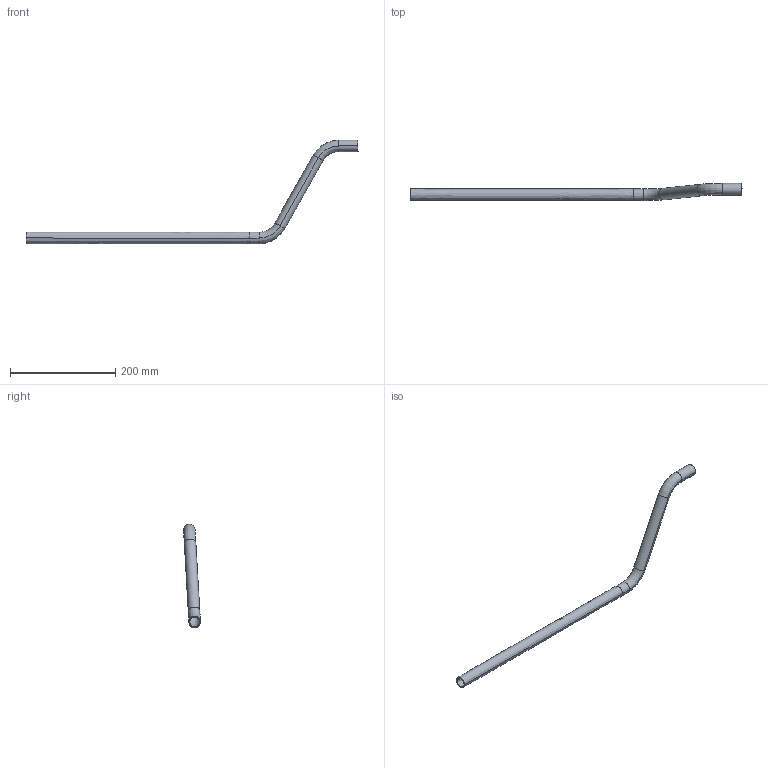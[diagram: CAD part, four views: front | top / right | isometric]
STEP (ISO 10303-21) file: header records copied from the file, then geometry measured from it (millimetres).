
FILE_DESCRIPTION(('CATIA V5 STEP Exchange','CAx-IF Rec.Pracs.--- Model Styling and Organization---1.2---2011-12-15'),'2;1');
FILE_NAME('c:\aplikace\smarteam\Temp\DO584411.step','2016-06-24T10:06:48+00:00',('none'),('none'),'CATIA Version 5 Release 21 SP 6 (IN-10)','CATIA V5 STEP AP214','none');
FILE_SCHEMA(('AUTOMOTIVE_DESIGN { 1 0 10303 214 1 1 1 1 }'));
Length unit declared in the file: millimetre
Products named in the file (1): DO584411, TRUBKA T2
Bounding box: 631.75 x 32.27 x 197.15 mm (x, y, z)
Volume: 69974 mm3; surface area: 93491.9 mm2
Topology: 1 solids, 1 shells, 26 faces, 52 edges, 28 vertices
Faces by surface type: bspline 16, extrusion 8, plane 2
Entity records: 1341 total; most frequent: CARTESIAN_POINT 959, ORIENTED_EDGE 104, EDGE_CURVE 52, DIRECTION 28, EDGE_LOOP 28, VERTEX_POINT 28, ADVANCED_FACE 26, FACE_OUTER_BOUND 26
